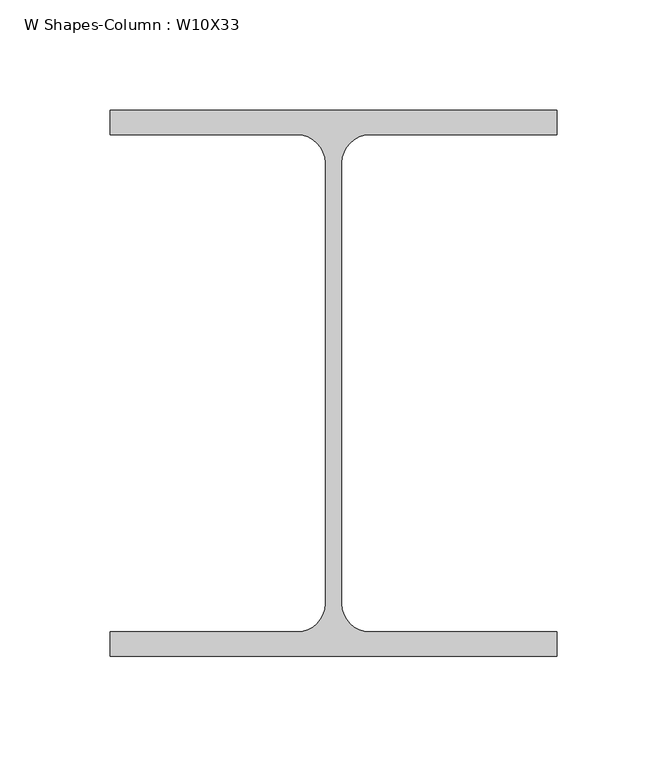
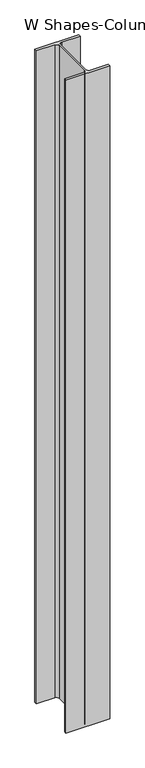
"""IFC4 building model written with IfcOpenShell, lengths in millimetres: column geometry, W Shapes-Column : W10X33."""

from ifc_helpers import new_model, si_unit, point, frame_2d, origin, origin_with_axes, place, context, project, spatial, polyline, circle_curve, trimmed, segment, composite_curve, outline, extrude, source, transform, mapped, element, save


def w_shapes_column_w10x33_aadc5645(model_context):
    return source(origin(), model_context, "Body", "SweptSolid", [
        extrude(outline(composite_curve([segment(polyline([(101.092, 123.571), (101.092, 112.522), (16.383, 112.522)]), True, "CONTINUOUS"), segment(trimmed(circle_curve(frame_2d((16.383, 99.822)), 12.7), [point((16.383, 112.522))], [point((3.683, 99.822))], True, "CARTESIAN"), True, "CONTINUOUS"), segment(polyline([(3.683, 99.822), (3.683, -99.822)]), True, "CONTINUOUS"), segment(trimmed(circle_curve(frame_2d((16.383, -99.822)), 12.7), [point((3.683, -99.822))], [point((16.383, -112.522))], True, "CARTESIAN"), True, "CONTINUOUS"), segment(polyline([(16.383, -112.522), (101.092, -112.522), (101.092, -123.571), (-101.092, -123.571), (-101.092, -112.522), (-16.383, -112.522)]), True, "CONTINUOUS"), segment(trimmed(circle_curve(frame_2d((-16.383, -99.822)), 12.7), [point((-16.383, -112.522))], [point((-3.683, -99.822))], True, "CARTESIAN"), True, "CONTINUOUS"), segment(polyline([(-3.683, -99.822), (-3.683, 99.822)]), True, "CONTINUOUS"), segment(trimmed(circle_curve(frame_2d((-16.383, 99.822)), 12.7), [point((-3.683, 99.822))], [point((-16.383, 112.522))], True, "CARTESIAN"), True, "CONTINUOUS"), segment(polyline([(-16.383, 112.522), (-101.092, 112.522), (-101.092, 123.571), (101.092, 123.571)]), True, "CONTINUOUS")], self_intersect=False)), origin_with_axes(), (0.0, 0.0, 1.0), 3175.0),
    ])


if __name__ == "__main__":
    model = new_model("IFC4")
    model_context = context("Model", 3, world=origin())
    ifc_project = project(units=[si_unit("LENGTHUNIT", "METRE", prefix="MILLI")], contexts=[model_context])
    site = spatial("IfcSite", under=ifc_project)
    building = spatial("IfcBuilding", under=site)
    placement = place(None, origin())
    w_shapes_column_w10x33_shape = w_shapes_column_w10x33_aadc5645(model_context)
    element("IfcColumn", 1, ObjectType="W Shapes-Column : W10X33", at=placement, inside=building, context=model_context, shape_type="MappedRepresentation", body=[
        mapped(w_shapes_column_w10x33_shape, transform((0.0, 0.0, 0.0), x_axis=(1.0, 0.0, 0.0), y_axis=(0.0, 1.0, 0.0), z_axis=(0.0, 0.0, 1.0))),
    ])
    save(model, "model.ifc")
